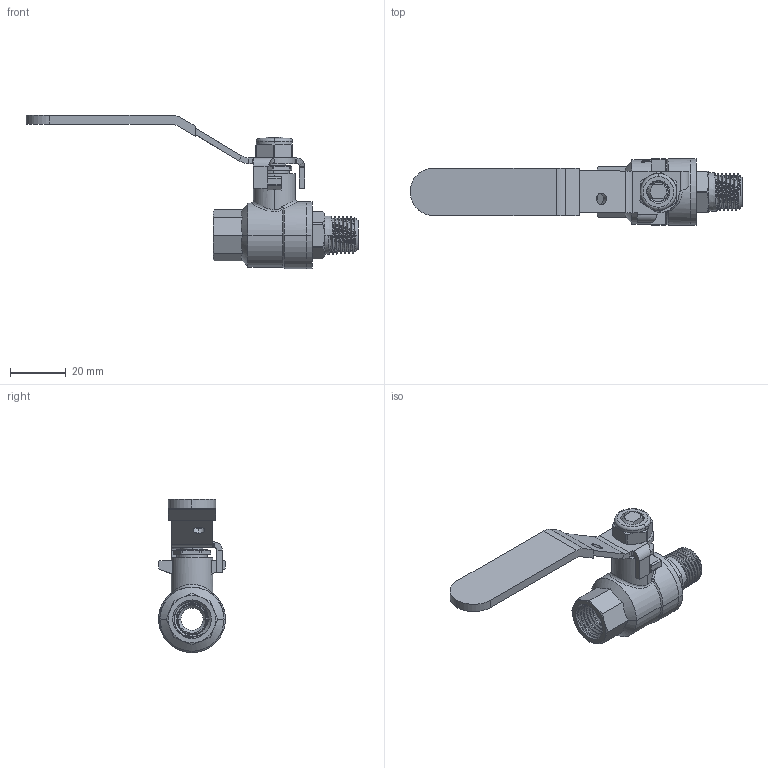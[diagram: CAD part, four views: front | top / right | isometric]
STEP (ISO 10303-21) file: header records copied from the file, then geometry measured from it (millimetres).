
FILE_DESCRIPTION(('Open CASCADE Model'),'2;1');
FILE_NAME('Open CASCADE Shape Model','2021-12-15T11:42:34',('Author'),( 'Open CASCADE'),'Open CASCADE STEP processor 7.3','Open CASCADE 7.3' ,'Unknown');
FILE_SCHEMA(('AUTOMOTIVE_DESIGN { 1 0 10303 214 1 1 1 1 }'));
Length unit declared in the file: millimetre
Products named in the file (12): Open CASCADE STEP translator 7.3 1; Open CASCADE STEP translator 7.3 1.1; Open CASCADE STEP translator 7.3 1.2; Open CASCADE STEP translator 7.3 1.3; Open CASCADE STEP translator 7.3 1.4; Open CASCADE STEP translator 7.3 1.5; Open CASCADE STEP translator 7.3 1.6; Open CASCADE STEP translator 7.3 1.7; Open CASCADE STEP translator 7.3 1.8; Open CASCADE STEP translator 7.3 1.9; Open CASCADE STEP translator 7.3 1.10; Open CASCADE STEP translator 7.3 1.11
Assembly tree (11 placements, depth 2):
  Open CASCADE STEP translator 7.3 1
    Open CASCADE STEP translator 7.3 1.1
    Open CASCADE STEP translator 7.3 1.2
    Open CASCADE STEP translator 7.3 1.3
    Open CASCADE STEP translator 7.3 1.4
    Open CASCADE STEP translator 7.3 1.5
    Open CASCADE STEP translator 7.3 1.6
    Open CASCADE STEP translator 7.3 1.7
    Open CASCADE STEP translator 7.3 1.8
    Open CASCADE STEP translator 7.3 1.9
    Open CASCADE STEP translator 7.3 1.10
    Open CASCADE STEP translator 7.3 1.11
Bounding box: 119.1 x 24 x 54.98 mm (x, y, z)
Volume: 18664.6 mm3; surface area: 17600.8 mm2
Topology: 11 solids, 11 shells, 595 faces, 1534 edges, 985 vertices
Faces by surface type: cylinder 175, plane 165, bspline 130, cone 105, torus 18, sphere 2
Entity records: 107068 total; most frequent: CARTESIAN_POINT 80154, DIRECTION 3799, ORIENTED_EDGE 3064, PCURVE 3064, DEFINITIONAL_REPRESENTATION 3064, LINE 1974, VECTOR 1974, B_SPLINE_CURVE_WITH_KNOTS 1845
